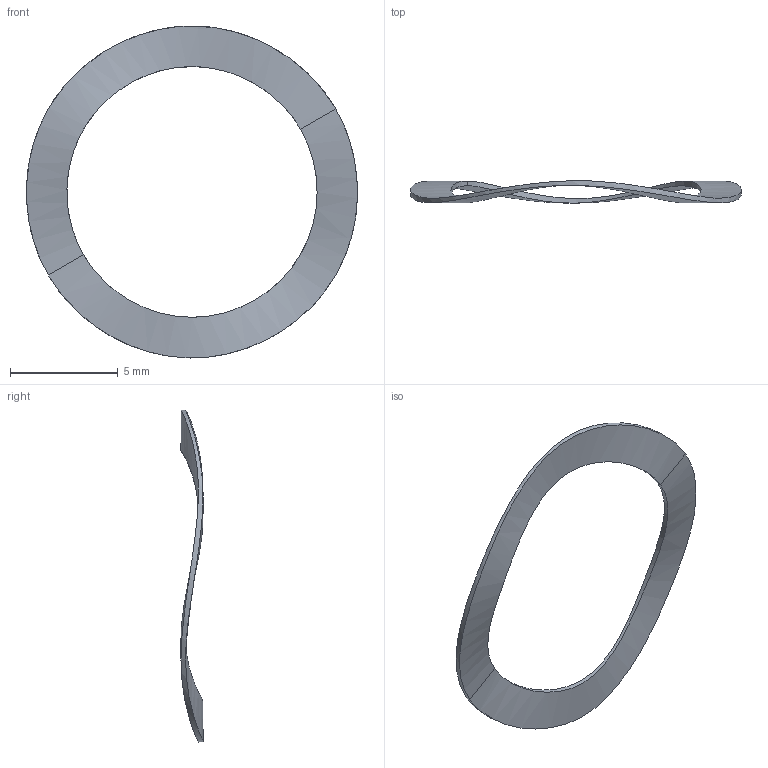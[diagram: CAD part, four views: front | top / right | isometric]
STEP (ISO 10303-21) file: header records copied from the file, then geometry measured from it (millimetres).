
FILE_DESCRIPTION(/* description */ ('STEP AP242 Edition 2','CAx-IF Rec.Pracs.---Representation and Presentation of Product Manufacturing Information (PMI)---4.0---2014-10-13','CAx-IF Rec.Pracs.---3D Tessellated Geometry---0.4---2014-09-14','2;1','CAx-IF Rec.Pracs.---User Defined Attributes---1.5---2016-08-15'),/* implementation_level */ '2;1');
FILE_NAME(/* name */ 'Assembly V2 - 9714K97_Wave Disc Spring',/* time_stamp */ '2026-02-05T22:44:36Z',/* author */ (''),/* organization */ (''),/* preprocessor_version */ 'ST-DEVELOPER v20',/* originating_system */ 'ONSHAPE BY PTC INC, 1.210',/* authorisation */ ' ');
FILE_SCHEMA (('AP242_MANAGED_MODEL_BASED_3D_ENGINEERING_MIM_LF { 1 0 10303 442 3 1 4 }'));
Length unit declared in the file: metre
Products named in the file (1): 9714K97_Wave Disc Spring
Bounding box: 15.39 x 1.03 x 15.44 mm (x, y, z)
Volume: 17.3 mm3; surface area: 179.8 mm2
Topology: 1 solids, 1 shells, 7 faces, 21 edges, 14 vertices
Faces by surface type: bspline 7
Entity records: 1640 total; most frequent: CARTESIAN_POINT 1463, ORIENTED_EDGE 40, EDGE_CURVE 20, VERTEX_POINT 14, DIRECTION 14, LINE 12, VECTOR 12, B_SPLINE_CURVE_WITH_KNOTS 8
